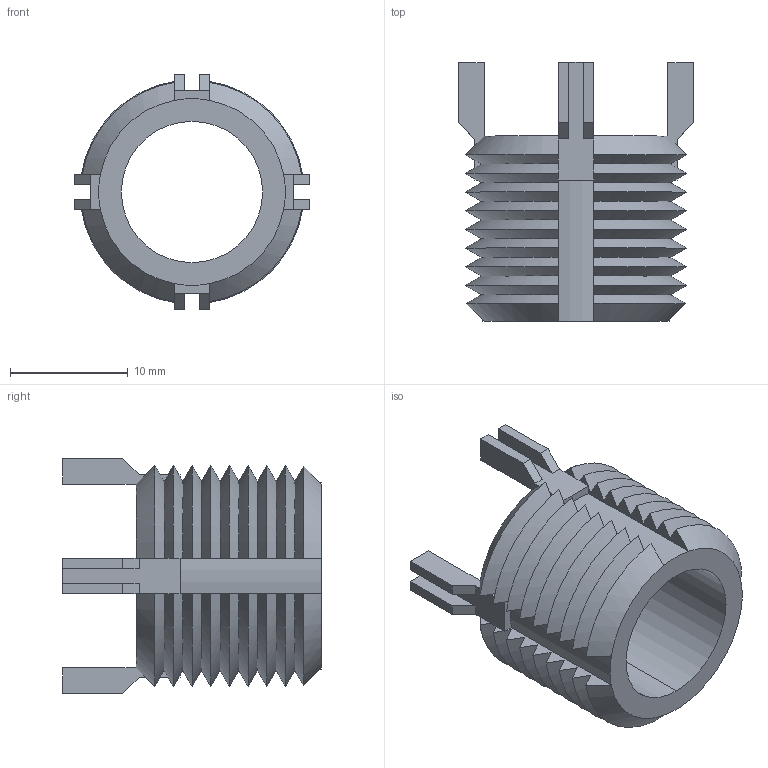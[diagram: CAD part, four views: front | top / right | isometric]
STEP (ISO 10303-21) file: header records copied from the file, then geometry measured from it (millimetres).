
FILE_DESCRIPTION (( 'STEP AP203' ), '1' );
FILE_NAME ('TR1535.66247.step', '2023-05-02T13:59:53', ( '' ), ( '' ), 'SwSTEP 2.0', 'SolidWorks 2019', '' );
FILE_SCHEMA (( 'CONFIG_CONTROL_DESIGN' ));
Length unit declared in the file: millimetre
Products named in the file (1): TR1535.66247
Bounding box: 19.99 x 21.99 x 19.99 mm (x, y, z)
Volume: 2052.6 mm3; surface area: 2686.6 mm2
Topology: 1 solids, 1 shells, 168 faces, 442 edges, 276 vertices
Faces by surface type: plane 90, cone 72, cylinder 6
Entity records: 5351 total; most frequent: CARTESIAN_POINT 1439, ORIENTED_EDGE 884, DIRECTION 684, EDGE_CURVE 442, VERTEX_POINT 276, AXIS2_PLACEMENT_3D 257, B_SPLINE_CURVE_WITH_KNOTS 184, LINE 170
